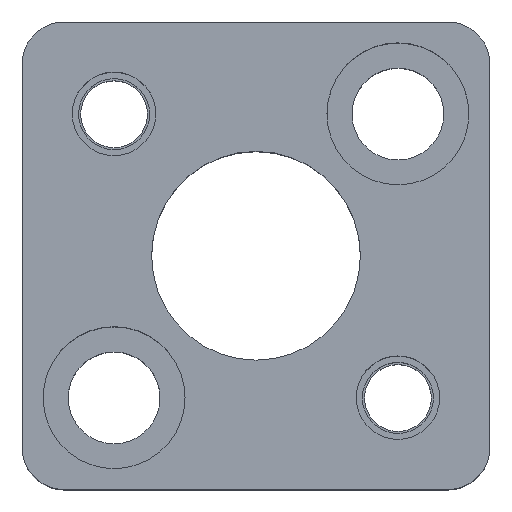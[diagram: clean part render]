
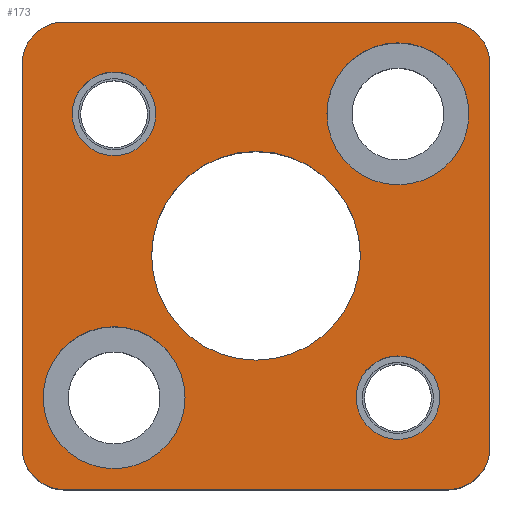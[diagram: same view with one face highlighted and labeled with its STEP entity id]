
A CAD part, top view. The second image highlights one B-rep face of the part: STEP entity #173.
In plain terms, the highlighted planar face has unit normal (0, 0, 1).
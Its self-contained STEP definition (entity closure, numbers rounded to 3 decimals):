
#112=PLANE('',#991);
#133=FACE_BOUND('',#298,.T.);
#134=FACE_BOUND('',#299,.T.);
#135=FACE_BOUND('',#300,.T.);
#136=FACE_BOUND('',#301,.T.);
#137=FACE_BOUND('',#302,.T.);
#138=FACE_BOUND('',#303,.T.);
#173=ADVANCED_FACE('',(#133,#134,#135,#136,#137,#138),#112,.T.);
#298=EDGE_LOOP('',(#490,#491,#492,#493,#494,#495,#496,#497));
#299=EDGE_LOOP('',(#498,#499));
#300=EDGE_LOOP('',(#500,#501));
#301=EDGE_LOOP('',(#502,#503));
#302=EDGE_LOOP('',(#504,#505));
#303=EDGE_LOOP('',(#506,#507));
#360=CIRCLE('',#955,5.);
#362=CIRCLE('',#958,5.);
#364=CIRCLE('',#962,5.);
#366=CIRCLE('',#965,5.);
#376=CIRCLE('',#981,5.);
#377=CIRCLE('',#982,5.);
#378=CIRCLE('',#983,5.);
#379=CIRCLE('',#984,5.);
#380=CIRCLE('',#985,8.5);
#381=CIRCLE('',#986,8.5);
#382=CIRCLE('',#987,8.5);
#383=CIRCLE('',#988,8.5);
#384=CIRCLE('',#989,12.5);
#385=CIRCLE('',#990,12.5);
#490=ORIENTED_EDGE('',*,*,#762,.T.);
#491=ORIENTED_EDGE('',*,*,#763,.T.);
#492=ORIENTED_EDGE('',*,*,#764,.T.);
#493=ORIENTED_EDGE('',*,*,#765,.T.);
#494=ORIENTED_EDGE('',*,*,#766,.T.);
#495=ORIENTED_EDGE('',*,*,#767,.T.);
#496=ORIENTED_EDGE('',*,*,#768,.T.);
#497=ORIENTED_EDGE('',*,*,#769,.T.);
#498=ORIENTED_EDGE('',*,*,#770,.F.);
#499=ORIENTED_EDGE('',*,*,#771,.F.);
#500=ORIENTED_EDGE('',*,*,#772,.F.);
#501=ORIENTED_EDGE('',*,*,#773,.F.);
#502=ORIENTED_EDGE('',*,*,#748,.F.);
#503=ORIENTED_EDGE('',*,*,#744,.F.);
#504=ORIENTED_EDGE('',*,*,#742,.F.);
#505=ORIENTED_EDGE('',*,*,#738,.F.);
#506=ORIENTED_EDGE('',*,*,#774,.T.);
#507=ORIENTED_EDGE('',*,*,#775,.T.);
#654=VERTEX_POINT('',#1377);
#655=VERTEX_POINT('',#1378);
#658=VERTEX_POINT('',#1390);
#659=VERTEX_POINT('',#1391);
#670=VERTEX_POINT('',#1427);
#671=VERTEX_POINT('',#1428);
#672=VERTEX_POINT('',#1430);
#673=VERTEX_POINT('',#1432);
#674=VERTEX_POINT('',#1434);
#675=VERTEX_POINT('',#1436);
#676=VERTEX_POINT('',#1438);
#677=VERTEX_POINT('',#1440);
#678=VERTEX_POINT('',#1443);
#679=VERTEX_POINT('',#1444);
#680=VERTEX_POINT('',#1447);
#681=VERTEX_POINT('',#1448);
#682=VERTEX_POINT('',#1451);
#683=VERTEX_POINT('',#1452);
#738=EDGE_CURVE('',#654,#655,#360,.T.);
#742=EDGE_CURVE('',#655,#654,#362,.T.);
#744=EDGE_CURVE('',#658,#659,#364,.T.);
#748=EDGE_CURVE('',#659,#658,#366,.T.);
#762=EDGE_CURVE('',#670,#671,#376,.T.);
#763=EDGE_CURVE('',#671,#672,#842,.T.);
#764=EDGE_CURVE('',#672,#673,#377,.T.);
#765=EDGE_CURVE('',#673,#674,#843,.T.);
#766=EDGE_CURVE('',#674,#675,#378,.T.);
#767=EDGE_CURVE('',#675,#676,#844,.T.);
#768=EDGE_CURVE('',#676,#677,#379,.T.);
#769=EDGE_CURVE('',#677,#670,#845,.T.);
#770=EDGE_CURVE('',#678,#679,#380,.T.);
#771=EDGE_CURVE('',#679,#678,#381,.T.);
#772=EDGE_CURVE('',#680,#681,#382,.T.);
#773=EDGE_CURVE('',#681,#680,#383,.T.);
#774=EDGE_CURVE('',#682,#683,#384,.T.);
#775=EDGE_CURVE('',#683,#682,#385,.T.);
#842=LINE('',#1429,#891);
#843=LINE('',#1433,#892);
#844=LINE('',#1437,#893);
#845=LINE('',#1441,#894);
#891=VECTOR('',#1174,1.);
#892=VECTOR('',#1177,1.);
#893=VECTOR('',#1180,1.);
#894=VECTOR('',#1183,1.);
#955=AXIS2_PLACEMENT_3D('',#1376,#1112,#1113);
#958=AXIS2_PLACEMENT_3D('',#1385,#1120,#1121);
#962=AXIS2_PLACEMENT_3D('',#1389,#1128,#1129);
#965=AXIS2_PLACEMENT_3D('',#1398,#1136,#1137);
#981=AXIS2_PLACEMENT_3D('',#1426,#1172,#1173);
#982=AXIS2_PLACEMENT_3D('',#1431,#1175,#1176);
#983=AXIS2_PLACEMENT_3D('',#1435,#1178,#1179);
#984=AXIS2_PLACEMENT_3D('',#1439,#1181,#1182);
#985=AXIS2_PLACEMENT_3D('',#1442,#1184,#1185);
#986=AXIS2_PLACEMENT_3D('',#1445,#1186,#1187);
#987=AXIS2_PLACEMENT_3D('',#1446,#1188,#1189);
#988=AXIS2_PLACEMENT_3D('',#1449,#1190,#1191);
#989=AXIS2_PLACEMENT_3D('',#1450,#1192,#1193);
#990=AXIS2_PLACEMENT_3D('',#1453,#1194,#1195);
#991=AXIS2_PLACEMENT_3D('',#1454,#1196,#1197);
#1112=DIRECTION('',(0.,0.,1.));
#1113=DIRECTION('',(-1.,0.,0.));
#1120=DIRECTION('',(0.,0.,1.));
#1121=DIRECTION('',(1.,0.,0.));
#1128=DIRECTION('',(0.,0.,1.));
#1129=DIRECTION('',(-1.,0.,0.));
#1136=DIRECTION('',(0.,0.,1.));
#1137=DIRECTION('',(1.,0.,0.));
#1172=DIRECTION('',(0.,0.,1.));
#1173=DIRECTION('',(-0.707,0.707,0.));
#1174=DIRECTION('',(0.,1.,0.));
#1175=DIRECTION('',(0.,0.,1.));
#1176=DIRECTION('',(-0.707,-0.707,0.));
#1177=DIRECTION('',(-1.,0.,0.));
#1178=DIRECTION('',(0.,0.,1.));
#1179=DIRECTION('',(0.707,-0.707,0.));
#1180=DIRECTION('',(0.,-1.,0.));
#1181=DIRECTION('',(0.,0.,1.));
#1182=DIRECTION('',(0.707,0.707,0.));
#1183=DIRECTION('',(1.,0.,0.));
#1184=DIRECTION('',(0.,0.,1.));
#1185=DIRECTION('',(1.,0.,0.));
#1186=DIRECTION('',(0.,0.,1.));
#1187=DIRECTION('',(-1.,0.,0.));
#1188=DIRECTION('',(0.,0.,1.));
#1189=DIRECTION('',(1.,0.,0.));
#1190=DIRECTION('',(0.,0.,1.));
#1191=DIRECTION('',(-1.,0.,0.));
#1192=DIRECTION('',(0.,0.,-1.));
#1193=DIRECTION('',(-1.,0.,0.));
#1194=DIRECTION('',(0.,0.,-1.));
#1195=DIRECTION('',(1.,0.,0.));
#1196=DIRECTION('',(0.,0.,1.));
#1197=DIRECTION('',(-1.,0.,0.));
#1376=CARTESIAN_POINT('',(17.,-17.,35.));
#1377=CARTESIAN_POINT('',(17.,-22.,35.));
#1378=CARTESIAN_POINT('',(17.,-12.,35.));
#1385=CARTESIAN_POINT('',(17.,-17.,35.));
#1389=CARTESIAN_POINT('',(-17.,17.,35.));
#1390=CARTESIAN_POINT('',(-17.,12.,35.));
#1391=CARTESIAN_POINT('',(-17.,22.,35.));
#1398=CARTESIAN_POINT('',(-17.,17.,35.));
#1426=CARTESIAN_POINT('',(23.,-23.,35.));
#1427=CARTESIAN_POINT('',(23.,-28.,35.));
#1428=CARTESIAN_POINT('',(28.,-23.,35.));
#1429=CARTESIAN_POINT('',(28.,23.,35.));
#1430=CARTESIAN_POINT('',(28.,23.,35.));
#1431=CARTESIAN_POINT('',(23.,23.,35.));
#1432=CARTESIAN_POINT('',(23.,28.,35.));
#1433=CARTESIAN_POINT('',(-23.,28.,35.));
#1434=CARTESIAN_POINT('',(-23.,28.,35.));
#1435=CARTESIAN_POINT('',(-23.,23.,35.));
#1436=CARTESIAN_POINT('',(-28.,23.,35.));
#1437=CARTESIAN_POINT('',(-28.,23.,35.));
#1438=CARTESIAN_POINT('',(-28.,-23.,35.));
#1439=CARTESIAN_POINT('',(-23.,-23.,35.));
#1440=CARTESIAN_POINT('',(-23.,-28.,35.));
#1441=CARTESIAN_POINT('',(-23.,-28.,35.));
#1442=CARTESIAN_POINT('',(17.,17.,35.));
#1443=CARTESIAN_POINT('',(17.,25.5,35.));
#1444=CARTESIAN_POINT('',(17.,8.5,35.));
#1445=CARTESIAN_POINT('',(17.,17.,35.));
#1446=CARTESIAN_POINT('',(-17.,-17.,35.));
#1447=CARTESIAN_POINT('',(-17.,-8.5,35.));
#1448=CARTESIAN_POINT('',(-17.,-25.5,35.));
#1449=CARTESIAN_POINT('',(-17.,-17.,35.));
#1450=CARTESIAN_POINT('',(0.,0.,35.));
#1451=CARTESIAN_POINT('',(0.,12.5,35.));
#1452=CARTESIAN_POINT('',(0.,-12.5,35.));
#1453=CARTESIAN_POINT('',(0.,0.,35.));
#1454=CARTESIAN_POINT('',(23.,-28.,35.));
